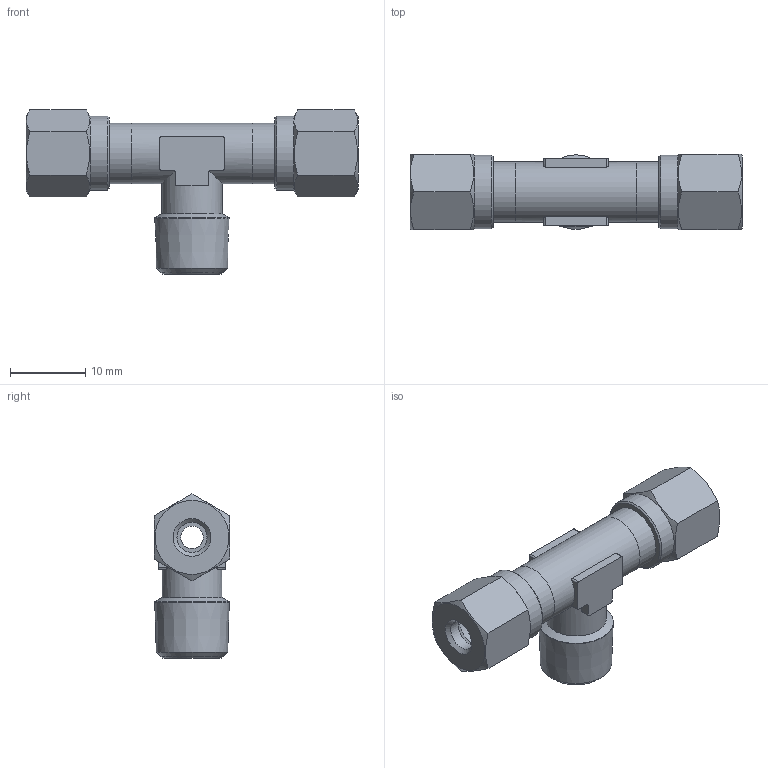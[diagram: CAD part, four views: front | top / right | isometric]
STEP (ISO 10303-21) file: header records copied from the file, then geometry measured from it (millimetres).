
FILE_DESCRIPTION(('Bauteilbeschreibung','HiCAD-Model','HiCAD-STEP-TRANSLATION','Bauteilbeschreibung'),'2;1');
FILE_NAME('B:/ABGLEICH/ZEICHNUNGEN/STEP FÜR INTERNET/STEP/207/92201_207_4_1-8.STP','2011-10-17T08:47:24+00:00',('Konstrukteur'),('Konstrukteur Firma GmbH'),' HiCAD neXt 2008, Step 3.1.1401.2J ','HiCAD neXt 2008','confidential');
FILE_SCHEMA(('AUTOMOTIVE_DESIGN { 1 2 10303 214 0 1 1 1 }'));
Length unit declared in the file: millimetre
Products named in the file (12): A2201_207_4_1_8; A2201; A22010; DIN 13_M8X1; DIN0130M8X1; R 1_8; A6801_210_4_M8X1; A68010210040M8X1; DIN0130M8X10; A68010210040M8X10; A68010210040M8X11; DIN0130M8X11
Assembly tree (11 placements, depth 3):
  A2201_207_4_1_8
    A2201
    A22010
      DIN 13_M8X1
      DIN0130M8X1
      R 1_8
    A6801_210_4_M8X1
    A68010210040M8X1
      DIN0130M8X10
    A68010210040M8X10
    A68010210040M8X11
      DIN0130M8X11
Bounding box: 44 x 10 x 21.77 mm (x, y, z)
Volume: 2897.5 mm3; surface area: 4988.3 mm2
Topology: 8 solids, 8 shells, 119 faces, 289 edges, 191 vertices
Faces by surface type: plane 53, cylinder 40, cone 26
Full cylindrical faces by diameter (mm): 3 x1, 4 x4, 4.5 x1, 6 x1, 6.773 x6, 8 x8, 9.8 x2, 9.884 x1
Entity records: 7803 total; most frequent: CARTESIAN_POINT 4111, DIRECTION 540, ORIENTED_EDGE 426, AXIS2_PLACEMENT_3D 235, EDGE_CURVE 213, COLOUR_RGB 196, PRESENTATION_STYLE_ASSIGNMENT 196, EDGE_LOOP 192
